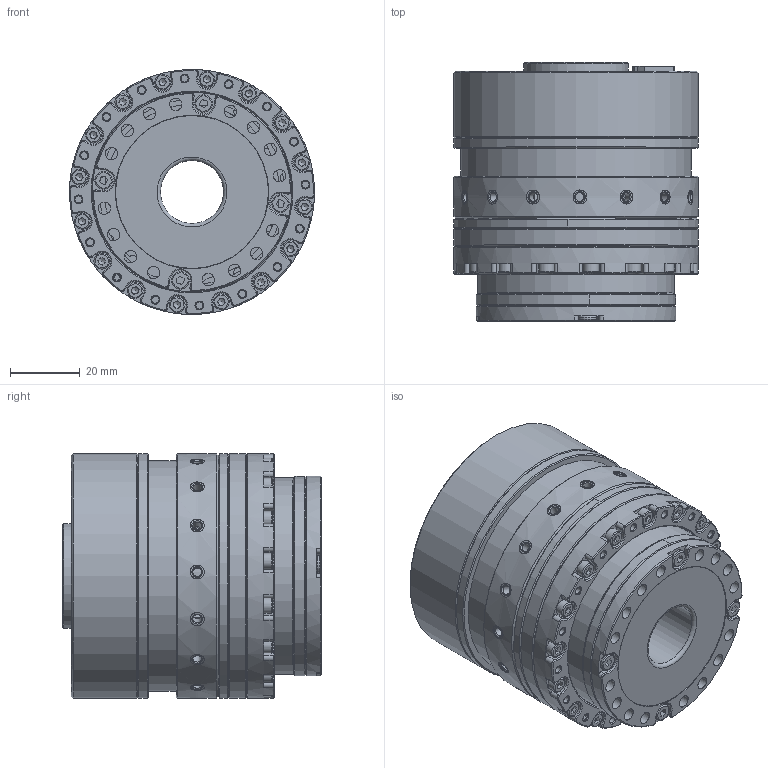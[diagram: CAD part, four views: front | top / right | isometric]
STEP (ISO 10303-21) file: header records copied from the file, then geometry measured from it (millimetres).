
FILE_DESCRIPTION (( 'STEP AP214' ), '1' );
FILE_NAME ('CRA-RI60-70-PRO-XX-2E-EC.STEP', '2024-08-30T07:16:41', ( '' ), ( '' ), 'SwSTEP 2.0', 'SolidWorks 2021', '' );
FILE_SCHEMA (( 'AUTOMOTIVE_DESIGN' ));
Length unit declared in the file: millimetre
Products named in the file (1): CRA-RI60-70-PRO-XX-2E-EC
Bounding box: 70 x 74 x 70 mm (x, y, z)
Surface area: 44957.5 mm2 (no closed solid volume)
Topology: 0 solids, 91 shells, 871 faces, 2765 edges, 1968 vertices
Faces by surface type: plane 438, cylinder 203, cone 198, torus 31, bspline 1
Full cylindrical faces by diameter (mm): 2 x4, 2.05 x16, 2.1 x3, 2.5 x16, 3.5 x16, 3.8 x4, 4 x16, 4.1 x4, 4.5 x16, 5 x4, 18 x1, 19.9 x1, 20 x1, 22 x1, 24 x1, 25 x1, 30 x1, 43.7 x1, 56.3 x1, 57 x1, 57.1 x1, 66 x1, 66.5 x1, 67.5 x1, 70 x5
Entity records: 42619 total; most frequent: CARTESIAN_POINT 9544, DIRECTION 4906, ORIENTED_EDGE 3894, EDGE_CURVE 2495, VERTEX_POINT 1938, AXIS2_PLACEMENT_3D 1732, LINE 1442, VECTOR 1442
